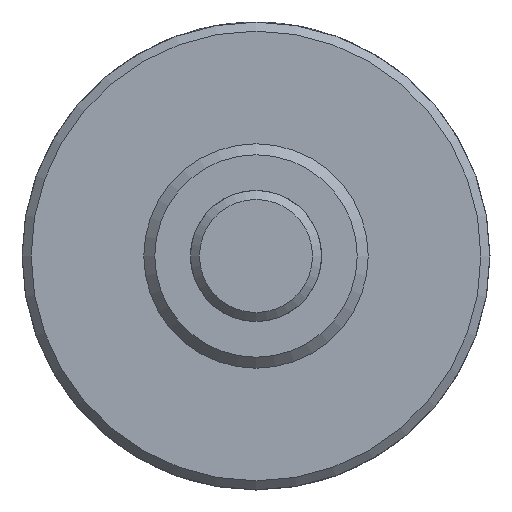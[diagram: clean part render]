
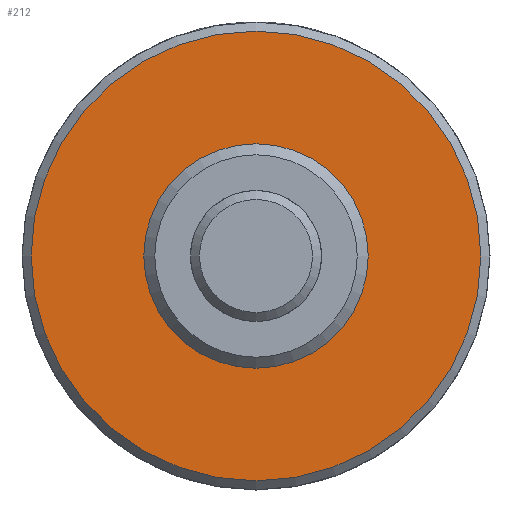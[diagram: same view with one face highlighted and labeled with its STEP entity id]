
A CAD part, left-side view. The second image highlights one B-rep face of the part: STEP entity #212.
In plain terms, the highlighted planar face has unit normal (-1, 0, 0).
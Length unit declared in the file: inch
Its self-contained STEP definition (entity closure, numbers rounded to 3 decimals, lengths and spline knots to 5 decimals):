
#212 = ADVANCED_FACE( '', ( #427, #428 ), #429, .F. );
#427 = FACE_OUTER_BOUND( '', #623, .T. );
#428 = FACE_BOUND( '', #624, .T. );
#429 = PLANE( '', #625 );
#623 = EDGE_LOOP( '', ( #960 ) );
#624 = EDGE_LOOP( '', ( #961 ) );
#625 = AXIS2_PLACEMENT_3D( '', #962, #963, #964 );
#960 = ORIENTED_EDGE( '', *, *, #1076, .F. );
#961 = ORIENTED_EDGE( '', *, *, #1045, .T. );
#962 = CARTESIAN_POINT( '', ( 0.625, 0.3745, 0. ) );
#963 = DIRECTION( '', ( 1., 0., 0. ) );
#964 = DIRECTION( '', ( 0., 0., -1. ) );
#1045 = EDGE_CURVE( '', #1210, #1210, #1211, .T. );
#1076 = EDGE_CURVE( '', #1250, #1250, #1251, .T. );
#1210 = VERTEX_POINT( '', #1407 );
#1211 = CIRCLE( '', #1408, 0.3745 );
#1250 = VERTEX_POINT( '', #1530 );
#1251 = CIRCLE( '', #1531, 0.7515 );
#1407 = CARTESIAN_POINT( '', ( 0.625, 0., -0.3745 ) );
#1408 = AXIS2_PLACEMENT_3D( '', #1667, #1668, #1669 );
#1530 = CARTESIAN_POINT( '', ( 0.625, 0., -0.7515 ) );
#1531 = AXIS2_PLACEMENT_3D( '', #1697, #1698, #1699 );
#1667 = CARTESIAN_POINT( '', ( 0.625, 0., 0. ) );
#1668 = DIRECTION( '', ( 1., 0., 0. ) );
#1669 = DIRECTION( '', ( 0., 0., -1. ) );
#1697 = CARTESIAN_POINT( '', ( 0.625, 0., 0. ) );
#1698 = DIRECTION( '', ( 1., 0., 0. ) );
#1699 = DIRECTION( '', ( 0., 0., -1. ) );
